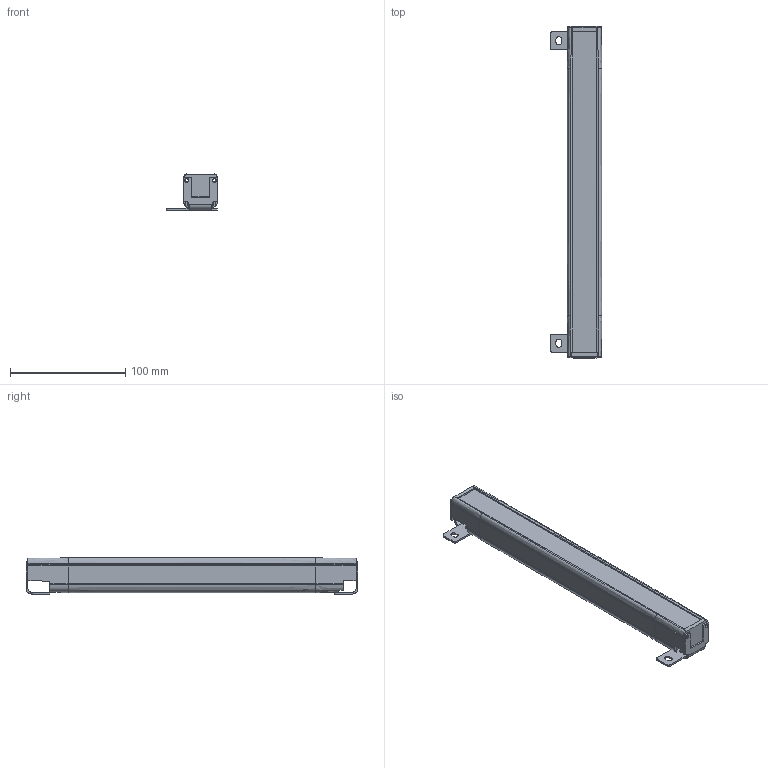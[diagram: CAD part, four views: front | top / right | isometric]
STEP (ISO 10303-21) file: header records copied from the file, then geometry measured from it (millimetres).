
FILE_DESCRIPTION(/* description */ (''),/* implementation_level */ '2;1');
FILE_NAME(/* name */ '1420.stp',/* time_stamp */ '2019-11-29T14:36:55+08:00',/* author */ (''),/* organization */ (''),/* preprocessor_version */ 'ST-DEVELOPER v16',/* originating_system */ 'SIEMENS PLM Software NX 10.0',/* authorisation */ '');
FILE_SCHEMA (('AP203_CONFIGURATION_CONTROLLED_3D_DESIGN_OF_MECHANICAL_PARTS_AND_ASSEMBLIES_MIM_LF { 1 0 10303 403 2 1 2}'));
Length unit declared in the file: millimetre
Products named in the file (1): Admi1B443ED8ikkn
Bounding box: 44.89 x 288.4 x 31.39 mm (x, y, z)
Volume: 88955.1 mm3; surface area: 97758.9 mm2
Topology: 6 solids, 6 shells, 441 faces, 1311 edges, 871 vertices
Faces by surface type: plane 256, cylinder 132, cone 32, bspline 14, extrusion 7
Full cylindrical faces by diameter (mm): 1.5 x2, 3.2 x8, 3.5 x8
Entity records: 15652 total; most frequent: CARTESIAN_POINT 3845, ORIENTED_EDGE 2528, DIRECTION 2314, EDGE_CURVE 1264, VECTOR 856, VERTEX_POINT 855, LINE 849, AXIS2_PLACEMENT_3D 729
